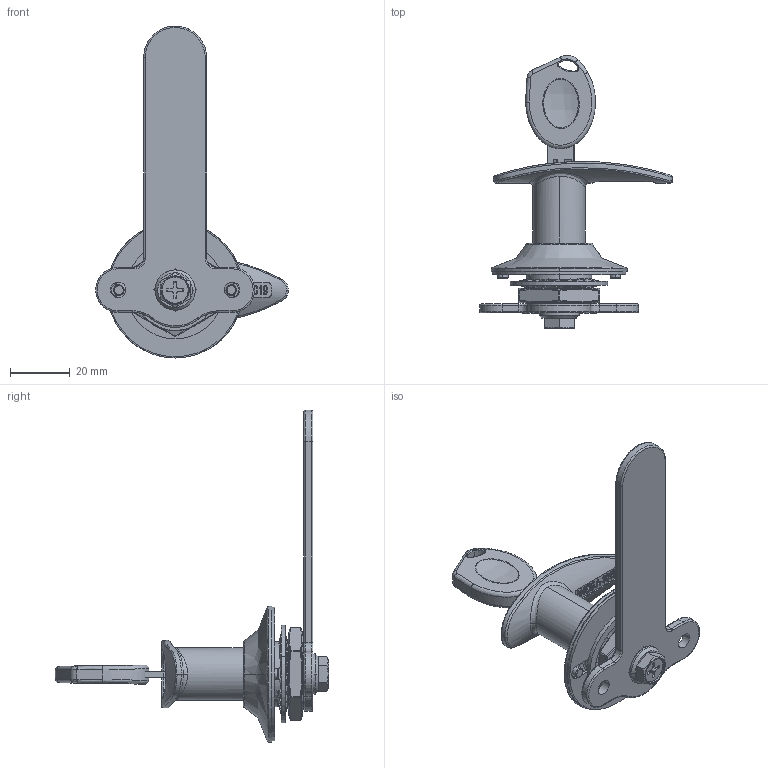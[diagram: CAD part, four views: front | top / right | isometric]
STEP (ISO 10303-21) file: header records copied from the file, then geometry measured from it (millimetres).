
FILE_DESCRIPTION (( 'STEP AP214' ), '1' );
FILE_NAME ('CUYUE B-1302-1__sldasm.STEP', '2026-06-18T02:41:32', ( '' ), ( '' ), 'SwSTEP 2.0', 'SolidWorks 2020', '' );
FILE_SCHEMA (( 'AUTOMOTIVE_DESIGN' ));
Length unit declared in the file: millimetre
Products named in the file (23): B-1302蚾饜极_A-19-1__sldasm.sldasm-Part-5; B-1302蚾饜极_A-19-1__sldasm.sldasm-Part-22; B-1302蚾饜极_A-19-1__sldasm.sldasm-Part-4; B-1302蚾饜极_A-19-1__sldasm.sldasm-Part-10; B-1302蚾饜极_A-19-1__sldasm.sldasm-Part-18; B-1302蚾饜极_A-19-1__sldasm.sldasm-Part-7; B-1302蚾饜极_A-19-1__sldasm.sldasm-Part-1; B-1302蚾饜极_A-19-1__sldasm.sldasm-Part-11; B-1302蚾饜极_A-19-1__sldasm.sldasm-Part-20; B-1302蚾饜极_A-19-1__sldasm.sldasm-Part-12; B-1302蚾饜极_A-19-1__sldasm.sldasm-Part-15; B-1302蚾饜极_A-19-1__sldasm.sldasm-Part-14; B-1302蚾饜极_A-19-1__sldasm.sldasm-Part-8; CUYUE B-1302-1__sldasm; B-1302蚾饜极_A-19-1__sldasm.sldasm-Part-17; B-1302蚾饜极_A-19-1__sldasm.sldasm-Part-19; B-1302蚾饜极_A-19-1__sldasm.sldasm-Part-3; B-1302蚾饜极_A-19-1__sldasm.sldasm-Part-16; B-1302蚾饜极_A-19-1__sldasm.sldasm-Part-6; B-1302蚾饜极_A-19-1__sldasm.sldasm-Part-13; B-1302蚾饜极_A-19-1__sldasm.sldasm-Part-9; B-1302蚾饜极_A-19-1__sldasm.sldasm-Part-21; B-1302蚾饜极_A-19-1__sldasm.sldasm-Part-2
Assembly tree (22 placements, depth 2):
  CUYUE B-1302-1__sldasm
    B-1302蚾饜极_A-19-1__sldasm.sldasm-Part-1
    B-1302蚾饜极_A-19-1__sldasm.sldasm-Part-2
    B-1302蚾饜极_A-19-1__sldasm.sldasm-Part-3
    B-1302蚾饜极_A-19-1__sldasm.sldasm-Part-4
    B-1302蚾饜极_A-19-1__sldasm.sldasm-Part-5
    B-1302蚾饜极_A-19-1__sldasm.sldasm-Part-6
    B-1302蚾饜极_A-19-1__sldasm.sldasm-Part-7
    B-1302蚾饜极_A-19-1__sldasm.sldasm-Part-8
    B-1302蚾饜极_A-19-1__sldasm.sldasm-Part-9
    B-1302蚾饜极_A-19-1__sldasm.sldasm-Part-10
    B-1302蚾饜极_A-19-1__sldasm.sldasm-Part-11
    B-1302蚾饜极_A-19-1__sldasm.sldasm-Part-12
    B-1302蚾饜极_A-19-1__sldasm.sldasm-Part-13
    B-1302蚾饜极_A-19-1__sldasm.sldasm-Part-14
    B-1302蚾饜极_A-19-1__sldasm.sldasm-Part-15
    B-1302蚾饜极_A-19-1__sldasm.sldasm-Part-16
    B-1302蚾饜极_A-19-1__sldasm.sldasm-Part-17
    B-1302蚾饜极_A-19-1__sldasm.sldasm-Part-18
    B-1302蚾饜极_A-19-1__sldasm.sldasm-Part-19
    B-1302蚾饜极_A-19-1__sldasm.sldasm-Part-20
    B-1302蚾饜极_A-19-1__sldasm.sldasm-Part-21
    B-1302蚾饜极_A-19-1__sldasm.sldasm-Part-22
Bounding box: 64.25 x 91.09 x 110.72 mm (x, y, z)
Volume: 32524.7 mm3; surface area: 30578.6 mm2
Topology: 21 solids, 22 shells, 1673 faces, 4421 edges, 2803 vertices
Faces by surface type: plane 555, cylinder 504, bspline 482, cone 68, torus 60, sphere 4
Entity records: 79829 total; most frequent: CARTESIAN_POINT 40978, ORIENTED_EDGE 8794, DIRECTION 6710, EDGE_CURVE 4403, VERTEX_POINT 2803, AXIS2_PLACEMENT_3D 2370, VECTOR 1970, LINE 1970
